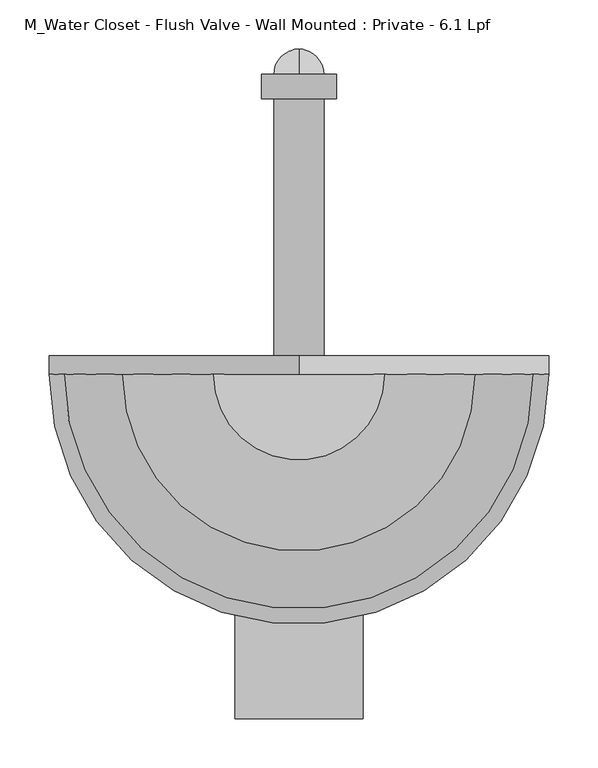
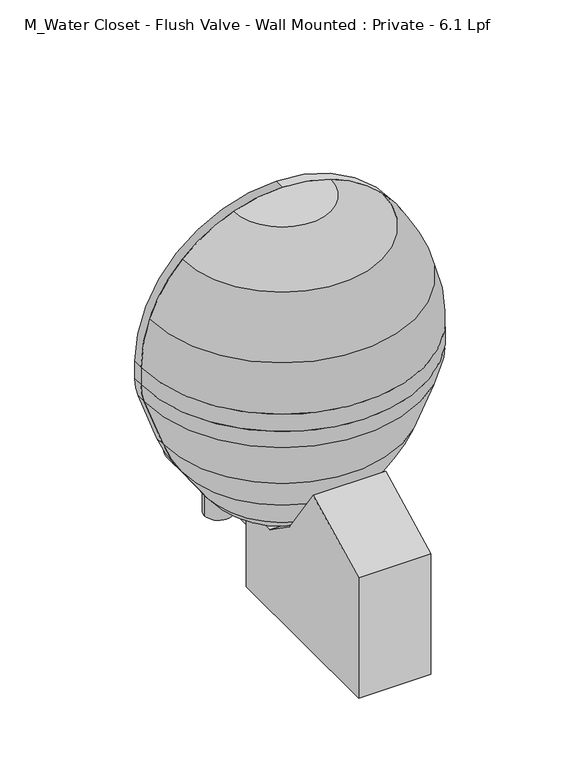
"""IFC4 building model written with IfcOpenShell, lengths in millimetres: flow terminal geometry, M_Water Closet - Flush Valve - Wall Mounted : Private - 6.1 Lpf."""

from ifc_helpers import new_model, si_unit, point, frame, frame_2d, origin, origin_with_axes, place, context, project, spatial, polyline, circle_curve, ellipse_curve, trimmed, segment, composite_curve, outline, extrude, source, transform, mapped, element, save
from ifc_brep_helpers import plane_surface, cylinder_surface, revolved_surface, advanced_brep


def m_water_closet_flush_valve_wall_mounted_private_6_1_lpf_4ab4cbdd(model_context):
    return source(origin(), model_context, "Body", "SolidModel", [
        extrude(outline(polyline([(245.0347495, -62.8509631), (194.0438043, -135.6735798), (169.0933226, -110.7230981), (145.0485961, -44.6607552), (145.0485961, 44.6607552), (169.0933226, 110.7230981), (194.0438043, 135.6735798), (245.0347495, 62.8509631), (245.0347495, -62.8509631)])), frame((0.0, 56.9324174, 0.0), z_axis=(0.0, 1.0, 0.0), x_axis=(0.0, 0.0, 1.0)), (0.0, 0.0, 1.0), 19.05),
        advanced_brep(
        [(-62.8509631, 75.9824174, 245.0347495), (-62.8509631, 56.9324174, 245.0347495), (-135.6735798, 56.9324174, 194.0438043), (-135.6735798, 75.9824174, 194.0438043), (-107.9552454, 75.9824174, 309.4503403), (-107.9552454, 56.9324174, 309.4503403), (-180.7778621, 56.9324174, 258.4593951), (-180.7778621, 75.9824174, 258.4593951), (-130.9182252, 56.9324174, 353.5618141), (-130.9182252, 75.9824174, 353.5618141), (-214.4568992, 56.9324174, 323.1562234), (-214.4568992, 75.9824174, 323.1562234), (-164.3340963, 75.9824174, 445.3711654), (-164.3340963, 56.9324174, 445.3711654), (-247.8727703, 56.9324174, 414.9655747), (-247.8727703, 75.9824174, 414.9655747), (-165.1, 56.9324174, 449.7148212), (-165.1, 75.9824174, 449.7148212), (-254.0, 56.9324174, 449.7148212), (-254.0, 75.9824174, 449.7148212), (-165.1, 75.9824174, 482.6), (-165.1, 56.9324174, 482.6), (-254.0, 56.9324174, 482.6), (-254.0, 75.9824174, 482.6), (0.0, 56.9324174, 647.7), (0.0, 75.9824174, 647.7), (0.0, 56.9324174, 736.6), (0.0, 75.9824174, 736.6), (165.1, 56.9324174, 482.6), (165.1, 75.9824174, 482.6), (254.0, 56.9324174, 482.6), (254.0, 75.9824174, 482.6), (165.1, 75.9824174, 449.7148212), (165.1, 56.9324174, 449.7148212), (254.0, 56.9324174, 449.7148212), (254.0, 75.9824174, 449.7148212), (164.3340963, 56.9324174, 445.3711654), (164.3340963, 75.9824174, 445.3711654), (247.8727703, 56.9324174, 414.9655747), (247.8727703, 75.9824174, 414.9655747), (130.9182252, 75.9824174, 353.5618141), (130.9182252, 56.9324174, 353.5618141), (214.4568992, 56.9324174, 323.1562234), (214.4568992, 75.9824174, 323.1562234), (107.9552454, 56.9324174, 309.4503403), (107.9552454, 75.9824174, 309.4503403), (180.7778621, 56.9324174, 258.4593951), (180.7778621, 75.9824174, 258.4593951), (62.8509631, 75.9824174, 245.0347495), (135.6735798, 75.9824174, 194.0438043), (135.6735798, 56.9324174, 194.0438043), (62.8509631, 56.9324174, 245.0347495)],
        [
            (0, 1),
            (1, 2),
            (2, 3),
            (3, 0),
            (0, 4),
            (4, 5),
            (5, 1),
            (5, 6),
            (6, 2),
            (6, 7),
            (7, 3),
            (7, 4),
            (8, 5, circle_curve(frame((48.0932191, 56.9324174, 418.7166514), z_axis=(0.0, -1.0, 0.0), x_axis=(-0.81915204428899, 0.0, -0.5735764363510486)), 190.5)),
            (4, 9, circle_curve(frame((48.0932191, 75.9824174, 418.7166514), z_axis=(0.0, 1.0, 0.0), x_axis=(-0.81915204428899, 0.0, -0.5735764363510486)), 190.5)),
            (9, 8),
            (10, 6, circle_curve(frame((48.0932191, 56.9324174, 418.7166514), z_axis=(0.0, -1.0, 0.0), x_axis=(-0.81915204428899, 0.0, -0.5735764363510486)), 279.4)),
            (8, 10),
            (11, 7, circle_curve(frame((48.0932191, 75.9824174, 418.7166514), z_axis=(0.0, -1.0, 0.0), x_axis=(-0.81915204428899, 0.0, -0.5735764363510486)), 279.4)),
            (10, 11),
            (11, 9),
            (9, 12),
            (12, 13),
            (13, 8),
            (13, 14),
            (14, 10),
            (14, 15),
            (15, 11),
            (15, 12),
            (16, 13, circle_curve(frame((-152.4, 56.9324174, 449.7148212), z_axis=(0.0, -1.0, 0.0), x_axis=(-0.9396926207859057, 0.0, -0.3420201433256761)), 12.7)),
            (12, 17, circle_curve(frame((-152.4, 75.9824174, 449.7148212), z_axis=(0.0, 1.0, 0.0), x_axis=(-0.9396926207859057, 0.0, -0.3420201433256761)), 12.7)),
            (17, 16),
            (18, 14, circle_curve(frame((-152.4, 56.9324174, 449.7148212), z_axis=(0.0, -1.0, 0.0), x_axis=(-0.9396926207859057, 0.0, -0.3420201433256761)), 101.6)),
            (16, 18),
            (19, 15, circle_curve(frame((-152.4, 75.9824174, 449.7148212), z_axis=(0.0, -1.0, 0.0), x_axis=(-0.9396926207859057, 0.0, -0.3420201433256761)), 101.6)),
            (18, 19),
            (19, 17),
            (17, 20),
            (20, 21),
            (21, 16),
            (21, 22),
            (22, 18),
            (22, 23),
            (23, 19),
            (23, 20),
            (24, 21, circle_curve(frame((0.0, 56.9324174, 482.6), z_axis=(0.0, -1.0, 0.0), x_axis=(-1.0, 0.0, 0.0)), 165.1)),
            (20, 25, circle_curve(frame((0.0, 75.9824174, 482.6), z_axis=(0.0, 1.0, 0.0), x_axis=(-1.0, 0.0, 0.0)), 165.1)),
            (25, 24),
            (26, 22, circle_curve(frame((0.0, 56.9324174, 482.6), z_axis=(0.0, -1.0, 0.0), x_axis=(-1.0, 0.0, 0.0)), 254.0)),
            (24, 26),
            (27, 23, circle_curve(frame((0.0, 75.9824174, 482.6), z_axis=(0.0, -1.0, 0.0), x_axis=(-1.0, 0.0, 0.0)), 254.0)),
            (26, 27),
            (27, 25),
            (28, 24, circle_curve(frame((0.0, 56.9324174, 482.6), z_axis=(0.0, -1.0, 0.0), x_axis=(0.0, 0.0, 1.0)), 165.1)),
            (25, 29, circle_curve(frame((0.0, 75.9824174, 482.6), z_axis=(0.0, 1.0, 0.0), x_axis=(0.0, 0.0, 1.0)), 165.1)),
            (29, 28),
            (30, 26, circle_curve(frame((0.0, 56.9324174, 482.6), z_axis=(0.0, -1.0, 0.0), x_axis=(0.0, 0.0, 1.0)), 254.0)),
            (28, 30),
            (31, 27, circle_curve(frame((0.0, 75.9824174, 482.6), z_axis=(0.0, -1.0, 0.0), x_axis=(0.0, 0.0, 1.0)), 254.0)),
            (30, 31),
            (31, 29),
            (29, 32),
            (32, 33),
            (33, 28),
            (33, 34),
            (34, 30),
            (34, 35),
            (35, 31),
            (35, 32),
            (36, 33, circle_curve(frame((152.4, 56.9324174, 449.7148212), z_axis=(0.0, -1.0, 0.0), x_axis=(1.0, 0.0, 0.0)), 12.7)),
            (32, 37, circle_curve(frame((152.4, 75.9824174, 449.7148212), z_axis=(0.0, 1.0, 0.0), x_axis=(1.0, 0.0, 0.0)), 12.7)),
            (37, 36),
            (38, 34, circle_curve(frame((152.4, 56.9324174, 449.7148212), z_axis=(0.0, -1.0, 0.0), x_axis=(1.0, 0.0, 0.0)), 101.6)),
            (36, 38),
            (39, 35, circle_curve(frame((152.4, 75.9824174, 449.7148212), z_axis=(0.0, -1.0, 0.0), x_axis=(1.0, 0.0, 0.0)), 101.6)),
            (38, 39),
            (39, 37),
            (37, 40),
            (40, 41),
            (41, 36),
            (41, 42),
            (42, 38),
            (42, 43),
            (43, 39),
            (43, 40),
            (44, 41, circle_curve(frame((-48.0932191, 56.9324174, 418.7166514), z_axis=(0.0, -1.0, 0.0), x_axis=(0.9396926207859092, 0.0, -0.3420201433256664)), 190.5)),
            (40, 45, circle_curve(frame((-48.0932191, 75.9824174, 418.7166514), z_axis=(0.0, 1.0, 0.0), x_axis=(0.9396926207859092, 0.0, -0.3420201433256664)), 190.5)),
            (45, 44),
            (46, 42, circle_curve(frame((-48.0932191, 56.9324174, 418.7166514), z_axis=(0.0, -1.0, 0.0), x_axis=(0.9396926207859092, 0.0, -0.3420201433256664)), 279.4)),
            (44, 46),
            (47, 43, circle_curve(frame((-48.0932191, 75.9824174, 418.7166514), z_axis=(0.0, -1.0, 0.0), x_axis=(0.9396926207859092, 0.0, -0.3420201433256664)), 279.4)),
            (46, 47),
            (47, 45),
            (48, 49),
            (49, 50),
            (50, 51),
            (51, 48),
            (45, 48),
            (51, 44),
            (50, 46),
            (49, 47),
        ],
        [
            plane_surface(frame((-135.6735798, -5.7171191, 194.0438043), z_axis=(0.5735764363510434, 0.0, -0.8191520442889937), x_axis=(0.8191520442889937, 0.0, 0.5735764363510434))),
            plane_surface(frame((-62.8509631, 75.9824174, 245.0347495), z_axis=(0.8191520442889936, 0.0, 0.5735764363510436), x_axis=(-0.5735764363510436, 0.0, 0.8191520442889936))),
            plane_surface(frame((-62.8509631, 56.9324174, 245.0347495), z_axis=(0.0, -1.0, 0.0), x_axis=(-0.5735764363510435, 0.0, 0.8191520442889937))),
            plane_surface(frame((-135.6735798, 56.9324174, 194.0438043), z_axis=(-0.8191520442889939, 0.0, -0.5735764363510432), x_axis=(-0.5735764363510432, 0.0, 0.8191520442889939))),
            plane_surface(frame((-135.6735798, 75.9824174, 194.0438043), z_axis=(0.0, 1.0000000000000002, 0.0), x_axis=(-0.5735764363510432, 0.0, 0.8191520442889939))),
            revolved_surface(polyline([(-107.95524533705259, 75.9824174, 309.4503402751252), (-107.95524533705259, 56.9324174, 309.4503402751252)]), (48.0932191, 88.6824174, 418.7166514), (0.0, 1.0, 0.0)),
            plane_surface(frame((48.0932191, 56.9324174, 418.7166514), z_axis=(0.0, -1.0, 0.0), x_axis=(-0.81915204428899, 0.0, -0.5735764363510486))),
            cylinder_surface(frame((48.0932191, 88.6824174, 418.7166514), z_axis=(0.0, 1.0, 0.0), x_axis=(-0.81915204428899, 0.0, -0.5735764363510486)), 279.4),
            plane_surface(frame((48.0932191, 75.9824174, 418.7166514), z_axis=(0.0, 1.0, 0.0), x_axis=(-0.81915204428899, 0.0, -0.5735764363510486))),
            plane_surface(frame((-130.9182252, 75.9824174, 353.5618141), z_axis=(0.939692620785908, 0.0, 0.3420201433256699), x_axis=(-0.3420201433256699, 0.0, 0.939692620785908))),
            plane_surface(frame((-130.9182252, 56.9324174, 353.5618141), z_axis=(0.0, -1.0, 0.0), x_axis=(-0.34202014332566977, 0.0, 0.939692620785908))),
            plane_surface(frame((-214.4568992, 56.9324174, 323.1562234), z_axis=(-0.9396926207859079, 0.0, -0.3420201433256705), x_axis=(-0.3420201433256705, 0.0, 0.9396926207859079))),
            plane_surface(frame((-214.4568992, 75.9824174, 323.1562234), z_axis=(0.0, 1.0, 0.0), x_axis=(-0.34202014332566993, 0.0, 0.939692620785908))),
            revolved_surface(polyline([(-164.334096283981, 75.9824174, 445.3711653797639), (-164.334096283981, 56.9324174, 445.3711653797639)]), (-152.4, 88.6824174, 449.7148212), (0.0, 1.0, 0.0)),
            plane_surface(frame((-152.4, 56.9324174, 449.7148212), z_axis=(0.0, -1.0000000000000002, 0.0), x_axis=(-0.9396926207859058, 0.0, -0.34202014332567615))),
            cylinder_surface(frame((-152.4, 88.6824174, 449.7148212), z_axis=(0.0, 1.0, 0.0), x_axis=(-0.9396926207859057, 0.0, -0.3420201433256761)), 101.6),
            plane_surface(frame((-152.4, 75.9824174, 449.7148212), z_axis=(0.0, 1.0000000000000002, 0.0), x_axis=(-0.9396926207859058, 0.0, -0.34202014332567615))),
            plane_surface(frame((-165.1, 75.9824174, 449.7148212), z_axis=(1.0, 0.0, 0.0), x_axis=(0.0, 0.0, 1.0))),
            plane_surface(frame((-165.1, 56.9324174, 449.7148212), z_axis=(0.0, -1.0, 0.0), x_axis=(0.0, 0.0, 1.0))),
            plane_surface(frame((-254.0, 56.9324174, 449.7148212), z_axis=(-1.0, 0.0, 0.0), x_axis=(0.0, 0.0, 1.0))),
            plane_surface(frame((-254.0, 75.9824174, 449.7148212), z_axis=(0.0, 1.0, 0.0), x_axis=(0.0, 0.0, 1.0))),
            revolved_surface(polyline([(-165.1, 75.9824174, 482.6), (-165.1, 56.9324174, 482.6)]), (0.0, 88.6824174, 482.6), (0.0, 1.0, 0.0)),
            plane_surface(frame((0.0, 56.9324174, 482.6), z_axis=(0.0, -1.0, 0.0), x_axis=(-1.0, 0.0, 0.0))),
            cylinder_surface(frame((0.0, 88.6824174, 482.6), z_axis=(0.0, 1.0, 0.0), x_axis=(-1.0, 0.0, 0.0)), 254.0),
            plane_surface(frame((0.0, 75.9824174, 482.6), z_axis=(0.0, 1.0, 0.0), x_axis=(-1.0, 0.0, 0.0))),
            revolved_surface(polyline([(0.0, 75.9824174, 647.7), (0.0, 56.9324174, 647.7)]), (0.0, 88.6824174, 482.6), (0.0, 1.0, 0.0)),
            plane_surface(frame((0.0, 56.9324174, 482.6), z_axis=(0.0, -1.0, 0.0), x_axis=(0.0, 0.0, 1.0))),
            cylinder_surface(frame((0.0, 88.6824174, 482.6), z_axis=(0.0, 1.0, 0.0), x_axis=(0.0, 0.0, 1.0)), 254.0),
            plane_surface(frame((0.0, 75.9824174, 482.6), z_axis=(0.0, 1.0, 0.0), x_axis=(0.0, 0.0, 1.0))),
            plane_surface(frame((165.1, 75.9824174, 482.6), z_axis=(-1.0, 0.0, 0.0), x_axis=(0.0, 0.0, -1.0))),
            plane_surface(frame((165.1, 56.9324174, 482.6), z_axis=(0.0, -1.0, 0.0), x_axis=(0.0, 0.0, -1.0))),
            plane_surface(frame((254.0, 56.9324174, 482.6), z_axis=(1.0, 0.0, 0.0), x_axis=(0.0, 0.0, -1.0))),
            plane_surface(frame((254.0, 75.9824174, 482.6), z_axis=(0.0, 1.0, 0.0), x_axis=(0.0, 0.0, -1.0))),
            revolved_surface(polyline([(165.1, 75.9824174, 449.7148212), (165.1, 56.9324174, 449.7148212)]), (152.4, 88.6824174, 449.7148212), (0.0, 1.0, 0.0)),
            plane_surface(frame((152.4, 56.9324174, 449.7148212), z_axis=(0.0, -1.0, 0.0), x_axis=(1.0, 0.0, 0.0))),
            cylinder_surface(frame((152.4, 88.6824174, 449.7148212), z_axis=(0.0, 1.0, 0.0), x_axis=(1.0, 0.0, 0.0)), 101.6),
            plane_surface(frame((152.4, 75.9824174, 449.7148212), z_axis=(0.0, 1.0, 0.0), x_axis=(1.0, 0.0, 0.0))),
            plane_surface(frame((164.3340963, 75.9824174, 445.3711654), z_axis=(-0.9396926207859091, 0.0, 0.34202014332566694), x_axis=(-0.34202014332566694, 0.0, -0.9396926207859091))),
            plane_surface(frame((164.3340963, 56.9324174, 445.3711654), z_axis=(0.0, -1.0000000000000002, 0.0), x_axis=(-0.34202014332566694, 0.0, -0.9396926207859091))),
            plane_surface(frame((247.8727703, 56.9324174, 414.9655747), z_axis=(0.939692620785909, 0.0, -0.34202014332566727), x_axis=(-0.34202014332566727, 0.0, -0.939692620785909))),
            plane_surface(frame((247.8727703, 75.9824174, 414.9655747), z_axis=(0.0, 1.0000000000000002, 0.0), x_axis=(-0.34202014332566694, 0.0, -0.9396926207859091))),
            revolved_surface(polyline([(130.91822515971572, 75.9824174, 353.5618140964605), (130.91822515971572, 56.9324174, 353.5618140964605)]), (-48.0932191, 88.6824174, 418.7166514), (0.0, 1.0, 0.0)),
            plane_surface(frame((-48.0932191, 56.9324174, 418.7166514), z_axis=(0.0, -1.0000000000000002, 0.0), x_axis=(0.9396926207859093, 0.0, -0.34202014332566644))),
            cylinder_surface(frame((-48.0932191, 88.6824174, 418.7166514), z_axis=(0.0, 1.0, 0.0), x_axis=(0.9396926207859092, 0.0, -0.3420201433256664)), 279.4),
            plane_surface(frame((-48.0932191, 75.9824174, 418.7166514), z_axis=(0.0, 1.0000000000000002, 0.0), x_axis=(0.9396926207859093, 0.0, -0.34202014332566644))),
            plane_surface(frame((135.6735798, 183.081954, 194.0438043), z_axis=(-0.573576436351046, 0.0, -0.8191520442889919), x_axis=(0.8191520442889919, 0.0, -0.573576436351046))),
            plane_surface(frame((107.9552454, 75.9824174, 309.4503403), z_axis=(-0.8191520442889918, 0.0, 0.5735764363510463), x_axis=(-0.5735764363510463, 0.0, -0.8191520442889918))),
            plane_surface(frame((107.9552454, 56.9324174, 309.4503403), z_axis=(0.0, -1.0, 0.0), x_axis=(-0.573576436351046, 0.0, -0.8191520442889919))),
            plane_surface(frame((180.7778621, 56.9324174, 258.4593951), z_axis=(0.8191520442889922, 0.0, -0.5735764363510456), x_axis=(-0.5735764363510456, 0.0, -0.8191520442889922))),
            plane_surface(frame((180.7778621, 75.9824174, 258.4593951), z_axis=(0.0, 1.0000000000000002, 0.0), x_axis=(-0.5735764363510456, 0.0, -0.8191520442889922))),
        ],
        [
            (0, [[1, 2, 3, 4]]),
            (1, [[-1, 5, 6, 7]]),
            (2, [[-2, -7, 8, 9]]),
            (3, [[-3, -9, 10, 11]]),
            (4, [[-4, -11, 12, -5]]),
            (5, [[13, -6, 14, 15]]),
            (6, [[16, -8, -13, 17]]),
            (7, [[18, -10, -16, 19]]),
            (8, [[-14, -12, -18, 20]]),
            (9, [[-15, 21, 22, 23]]),
            (10, [[-17, -23, 24, 25]]),
            (11, [[-19, -25, 26, 27]]),
            (12, [[-20, -27, 28, -21]]),
            (13, [[29, -22, 30, 31]]),
            (14, [[32, -24, -29, 33]]),
            (15, [[34, -26, -32, 35]]),
            (16, [[-30, -28, -34, 36]]),
            (17, [[-31, 37, 38, 39]]),
            (18, [[-33, -39, 40, 41]]),
            (19, [[-35, -41, 42, 43]]),
            (20, [[-36, -43, 44, -37]]),
            (21, [[45, -38, 46, 47]]),
            (22, [[48, -40, -45, 49]]),
            (23, [[50, -42, -48, 51]]),
            (24, [[-46, -44, -50, 52]]),
            (25, [[53, -47, 54, 55]]),
            (26, [[56, -49, -53, 57]]),
            (27, [[58, -51, -56, 59]]),
            (28, [[-54, -52, -58, 60]]),
            (29, [[-55, 61, 62, 63]]),
            (30, [[-57, -63, 64, 65]]),
            (31, [[-59, -65, 66, 67]]),
            (32, [[-60, -67, 68, -61]]),
            (33, [[69, -62, 70, 71]]),
            (34, [[72, -64, -69, 73]]),
            (35, [[74, -66, -72, 75]]),
            (36, [[-70, -68, -74, 76]]),
            (37, [[-71, 77, 78, 79]]),
            (38, [[-73, -79, 80, 81]]),
            (39, [[-75, -81, 82, 83]]),
            (40, [[-76, -83, 84, -77]]),
            (41, [[85, -78, 86, 87]]),
            (42, [[88, -80, -85, 89]]),
            (43, [[90, -82, -88, 91]]),
            (44, [[-86, -84, -90, 92]]),
            (45, [[93, 94, 95, 96]]),
            (46, [[-87, 97, -96, 98]]),
            (47, [[-89, -98, -95, 99]]),
            (48, [[-91, -99, -94, 100]]),
            (49, [[-92, -100, -93, -97]]),
        ],
    ),
        advanced_brep(
        [(-86.8731164, 56.9324174, 721.2819257), (0.0, 56.9324174, 736.6), (0.0, 56.9324174, 711.2), (-78.1858048, 56.9324174, 697.4137331), (-161.6446102, 56.9324174, 644.2446102), (-214.8137331, 56.9324174, 560.7858048), (-228.6, 56.9324174, 482.6), (-228.6, 56.9324174, 449.7148212), (-224.0045777, 56.9324174, 423.6528863), (-191.7324129, 56.9324174, 334.9858422), (-158.0533758, 56.9324174, 270.2890139), (-120.1697426, 56.9324174, 216.1855786), (-63.2399099, 56.9324174, 176.3228806), (0.0, 56.9324174, 159.3777978), (0.0, 56.9324174, 133.0817829), (-78.7437471, 56.9324174, 154.1811063), (-135.6735798, 56.9324174, 194.0438043), (-180.7778621, 56.9324174, 258.4593951), (-214.4568992, 56.9324174, 323.1562234), (-247.8727703, 56.9324174, 414.9655747), (-254.0, 56.9324174, 449.7148212), (-254.0, 56.9324174, 482.6), (-238.6819257, 56.9324174, 569.4731164), (-179.6051224, 56.9324174, 662.2051224), (86.8731164, 56.9324174, 721.2819257), (179.6051224, 56.9324174, 662.2051224), (238.6819257, 56.9324174, 569.4731164), (254.0, 56.9324174, 482.6), (254.0, 56.9324174, 449.7148212), (247.8727703, 56.9324174, 414.9655747), (214.4568992, 56.9324174, 323.1562234), (180.7778621, 56.9324174, 258.4593951), (135.6735798, 56.9324174, 194.0438043), (78.7437471, 56.9324174, 154.1811063), (63.2399099, 56.9324174, 176.3228806), (120.1697426, 56.9324174, 216.1855786), (158.0533758, 56.9324174, 270.2890139), (191.7324129, 56.9324174, 334.9858422), (224.0045777, 56.9324174, 423.6528863), (228.6, 56.9324174, 449.7148212), (228.6, 56.9324174, 482.6), (214.8137331, 56.9324174, 560.7858048), (161.6446102, 56.9324174, 644.2446102), (78.1858048, 56.9324174, 697.4137331)],
        [
            (0, 1, circle_curve(frame((0.0, 56.9324174, 482.6), z_axis=(0.0, 1.0, 0.0), x_axis=(-1.0, 0.0, 0.0)), 254.0)),
            (1, 2),
            (2, 3, circle_curve(frame((0.0, 56.9324174, 482.6), z_axis=(0.0, -1.0, 0.0), x_axis=(-1.0, 0.0, 0.0)), 228.6)),
            (3, 4, circle_curve(frame((0.0, 56.9324174, 482.6), z_axis=(0.0, -1.0, 0.0), x_axis=(-1.0, 0.0, 0.0)), 228.6)),
            (4, 5, circle_curve(frame((0.0, 56.9324174, 482.6), z_axis=(0.0, -1.0, 0.0), x_axis=(-1.0, 0.0, 0.0)), 228.6)),
            (5, 6, circle_curve(frame((0.0, 56.9324174, 482.6), z_axis=(0.0, -1.0, 0.0), x_axis=(-1.0, 0.0, 0.0)), 228.6)),
            (6, 7),
            (7, 8, circle_curve(frame((-152.4, 56.9324174, 449.7148212), z_axis=(0.0, -1.0, 0.0), x_axis=(-1.0, 0.0, 0.0)), 76.2)),
            (8, 9),
            (9, 10, circle_curve(frame((70.8177054, 56.9324174, 430.5462703), z_axis=(0.0, -1.0, 0.0), x_axis=(-1.0, 0.0, 0.0)), 279.4)),
            (10, 11),
            (11, 12, circle_curve(frame((-36.9438949, 56.9324174, 274.4609446), z_axis=(0.0, -1.0, 0.0), x_axis=(-1.0, 0.0, 0.0)), 101.6)),
            (12, 13),
            (13, 14),
            (14, 15),
            (15, 16, circle_curve(frame((-52.4477321, 56.9324174, 252.3191703), z_axis=(0.0, 1.0, 0.0), x_axis=(-1.0, 0.0, 0.0)), 101.6)),
            (16, 17),
            (17, 18, circle_curve(frame((48.0932191, 56.9324174, 418.7166514), z_axis=(0.0, 1.0, 0.0), x_axis=(-1.0, 0.0, 0.0)), 279.4)),
            (18, 19),
            (19, 20, circle_curve(frame((-152.4, 56.9324174, 449.7148212), z_axis=(0.0, 1.0, 0.0), x_axis=(-1.0, 0.0, 0.0)), 101.6)),
            (20, 21),
            (21, 22, circle_curve(frame((0.0, 56.9324174, 482.6), z_axis=(0.0, 1.0, 0.0), x_axis=(-1.0, 0.0, 0.0)), 254.0)),
            (22, 23, circle_curve(frame((0.0, 56.9324174, 482.6), z_axis=(0.0, 1.0, 0.0), x_axis=(-1.0, 0.0, 0.0)), 254.0)),
            (23, 0, circle_curve(frame((0.0, 56.9324174, 482.6), z_axis=(0.0, 1.0, 0.0), x_axis=(-1.0, 0.0, 0.0)), 254.0)),
            (24, 25, circle_curve(frame((0.0, 56.9324174, 482.6), z_axis=(0.0, 1.0, 0.0), x_axis=(1.0, 0.0, 0.0)), 254.0)),
            (25, 26, circle_curve(frame((0.0, 56.9324174, 482.6), z_axis=(0.0, 1.0, 0.0), x_axis=(1.0, 0.0, 0.0)), 254.0)),
            (26, 27, circle_curve(frame((0.0, 56.9324174, 482.6), z_axis=(0.0, 1.0, 0.0), x_axis=(1.0, 0.0, 0.0)), 254.0)),
            (27, 28),
            (28, 29, circle_curve(frame((152.4, 56.9324174, 449.7148212), z_axis=(0.0, 1.0, 0.0), x_axis=(1.0, 0.0, 0.0)), 101.6)),
            (29, 30),
            (30, 31, circle_curve(frame((-48.0932191, 56.9324174, 418.7166514), z_axis=(0.0, 1.0, 0.0), x_axis=(1.0, 0.0, 0.0)), 279.4)),
            (31, 32),
            (32, 33, circle_curve(frame((52.4477321, 56.9324174, 252.3191703), z_axis=(0.0, 1.0, 0.0), x_axis=(1.0, 0.0, 0.0)), 101.6)),
            (33, 14),
            (13, 34),
            (34, 35, circle_curve(frame((36.9438949, 56.9324174, 274.4609446), z_axis=(0.0, -1.0, 0.0), x_axis=(1.0, 0.0, 0.0)), 101.6)),
            (35, 36),
            (36, 37, circle_curve(frame((-70.8177054, 56.9324174, 430.5462703), z_axis=(0.0, -1.0, 0.0), x_axis=(1.0, 0.0, 0.0)), 279.4)),
            (37, 38),
            (38, 39, circle_curve(frame((152.4, 56.9324174, 449.7148212), z_axis=(0.0, -1.0, 0.0), x_axis=(1.0, 0.0, 0.0)), 76.2)),
            (39, 40),
            (40, 41, circle_curve(frame((0.0, 56.9324174, 482.6), z_axis=(0.0, -1.0, 0.0), x_axis=(1.0, 0.0, 0.0)), 228.6)),
            (41, 42, circle_curve(frame((0.0, 56.9324174, 482.6), z_axis=(0.0, -1.0, 0.0), x_axis=(1.0, 0.0, 0.0)), 228.6)),
            (42, 43, circle_curve(frame((0.0, 56.9324174, 482.6), z_axis=(0.0, -1.0, 0.0), x_axis=(1.0, 0.0, 0.0)), 228.6)),
            (43, 2, circle_curve(frame((0.0, 56.9324174, 482.6), z_axis=(0.0, -1.0, 0.0), x_axis=(1.0, 0.0, 0.0)), 228.6)),
            (1, 24, circle_curve(frame((0.0, 56.9324174, 482.6), z_axis=(0.0, 1.0, 0.0), x_axis=(1.0, 0.0, 0.0)), 254.0)),
            (0, 24, circle_curve(frame((0.0, 56.9324174, 721.2819257), z_axis=(0.0, 0.0, 1.0), x_axis=(-1.0, 0.0, 0.0)), 86.8731164)),
            (43, 3, circle_curve(frame((0.0, 56.9324174, 697.4137331), z_axis=(0.0, 0.0, -1.0), x_axis=(-1.0, 0.0, 0.0)), 78.1858048)),
            (42, 4, circle_curve(frame((0.0, 56.9324174, 644.2446102), z_axis=(0.0, 0.0, -1.0), x_axis=(-1.0, 0.0, 0.0)), 161.6446102)),
            (41, 5, circle_curve(frame((0.0, 56.9324174, 560.7858048), z_axis=(0.0, 0.0, -1.0), x_axis=(-1.0, 0.0, 0.0)), 214.8137331)),
            (40, 6, circle_curve(frame((0.0, 56.9324174, 482.6), z_axis=(0.0, 0.0, -1.0), x_axis=(-1.0, 0.0, 0.0)), 228.6)),
            (39, 7, circle_curve(frame((0.0, 56.9324174, 449.7148212), z_axis=(0.0, 0.0, -1.0), x_axis=(-1.0, 0.0, 0.0)), 228.6)),
            (38, 8, circle_curve(frame((0.0, 56.9324174, 423.6528863), z_axis=(0.0, 0.0, -1.0), x_axis=(-1.0, 0.0, 0.0)), 224.0045777)),
            (37, 9, circle_curve(frame((0.0, 56.9324174, 334.9858422), z_axis=(0.0, 0.0, -1.0), x_axis=(-1.0, 0.0, 0.0)), 191.7324129)),
            (36, 10, circle_curve(frame((0.0, 56.9324174, 270.2890139), z_axis=(0.0, 0.0, -1.0), x_axis=(-1.0, 0.0, 0.0)), 158.0533758)),
            (35, 11, circle_curve(frame((0.0, 56.9324174, 216.1855786), z_axis=(0.0, 0.0, -1.0), x_axis=(-1.0, 0.0, 0.0)), 120.1697426)),
            (34, 12, circle_curve(frame((0.0, 56.9324174, 176.3228806), z_axis=(0.0, 0.0, -1.0), x_axis=(-1.0, 0.0, 0.0)), 63.2399099)),
            (33, 15, circle_curve(frame((0.0, 56.9324174, 154.1811063), z_axis=(0.0, 0.0, -1.0), x_axis=(-1.0, 0.0, 0.0)), 78.7437471)),
            (32, 16, circle_curve(frame((0.0, 56.9324174, 194.0438043), z_axis=(0.0, 0.0, -1.0), x_axis=(-1.0, 0.0, 0.0)), 135.6735798)),
            (31, 17, circle_curve(frame((0.0, 56.9324174, 258.4593951), z_axis=(0.0, 0.0, -1.0), x_axis=(-1.0, 0.0, 0.0)), 180.7778621)),
            (30, 18, circle_curve(frame((0.0, 56.9324174, 323.1562234), z_axis=(0.0, 0.0, -1.0), x_axis=(-1.0, 0.0, 0.0)), 214.4568992)),
            (29, 19, circle_curve(frame((0.0, 56.9324174, 414.9655747), z_axis=(0.0, 0.0, -1.0), x_axis=(-1.0, 0.0, 0.0)), 247.8727703)),
            (28, 20, circle_curve(frame((0.0, 56.9324174, 449.7148212), z_axis=(0.0, 0.0, -1.0), x_axis=(-1.0, 0.0, 0.0)), 254.0)),
            (27, 21, circle_curve(frame((0.0, 56.9324174, 482.6), z_axis=(0.0, 0.0, -1.0), x_axis=(-1.0, 0.0, 0.0)), 254.0)),
            (26, 22, circle_curve(frame((0.0, 56.9324174, 569.4731164), z_axis=(0.0, 0.0, -1.0), x_axis=(-1.0, 0.0, 0.0)), 238.6819257)),
            (25, 23, circle_curve(frame((0.0, 56.9324174, 662.2051224), z_axis=(0.0, 0.0, -1.0), x_axis=(-1.0, 0.0, 0.0)), 179.6051224)),
        ],
        [
            plane_surface(frame((0.0, 56.9324174, 841.8102448), z_axis=(0.0, 1.0, 0.0), x_axis=(-1.0, 0.0, 0.0))),
            plane_surface(frame((0.0, 56.9324174, 841.8102448), z_axis=(0.0, 1.0, 0.0), x_axis=(1.0, 0.0, 0.0))),
            revolved_surface(trimmed(ellipse_curve(frame((0.0, 56.9324174, 482.6), z_axis=(0.0, 1.0, 0.0), x_axis=(-1.0, 0.0, 0.0)), 254.0, 254.0), [point((-86.8731164, 56.9324174, 721.2819257))], [point((0.0, 56.9324174, 736.6))], True, "CARTESIAN"), (0.0, 56.9324174, 841.8102448), (0.0, 0.0, 1.0)),
            revolved_surface(trimmed(ellipse_curve(frame((0.0, 56.9324174, 482.6), z_axis=(0.0, -1.0, 0.0), x_axis=(-1.0, 0.0, 0.0)), 228.6, 228.6), [point((0.0, 56.9324174, 711.2))], [point((-78.1858048, 56.9324174, 697.4137331))], True, "CARTESIAN"), (0.0, 56.9324174, 841.8102448), (0.0, 0.0, 1.0)),
            revolved_surface(trimmed(ellipse_curve(frame((0.0, 56.9324174, 482.6), z_axis=(0.0, -1.0, 0.0), x_axis=(-1.0, 0.0, 0.0)), 228.6, 228.6), [point((-78.1858048, 56.9324174, 697.4137331))], [point((-161.6446102, 56.9324174, 644.2446102))], True, "CARTESIAN"), (0.0, 56.9324174, 841.8102448), (0.0, 0.0, 1.0)),
            revolved_surface(trimmed(ellipse_curve(frame((0.0, 56.9324174, 482.6), z_axis=(0.0, -1.0, 0.0), x_axis=(-1.0, 0.0, 0.0)), 228.6, 228.6), [point((-161.6446102, 56.9324174, 644.2446102))], [point((-214.8137331, 56.9324174, 560.7858048))], True, "CARTESIAN"), (0.0, 56.9324174, 841.8102448), (0.0, 0.0, 1.0)),
            revolved_surface(trimmed(ellipse_curve(frame((0.0, 56.9324174, 482.6), z_axis=(0.0, -1.0, 0.0), x_axis=(-1.0, 0.0, 0.0)), 228.6, 228.6), [point((-214.8137331, 56.9324174, 560.7858048))], [point((-228.6, 56.9324174, 482.6))], True, "CARTESIAN"), (0.0, 56.9324174, 841.8102448), (0.0, 0.0, 1.0)),
            revolved_surface(polyline([(-228.6, 56.9324174, 482.6), (-228.6, 56.9324174, 449.7148212)]), (0.0, 56.9324174, 841.8102448), (0.0, 0.0, 1.0)),
            revolved_surface(trimmed(ellipse_curve(frame((-152.4, 56.9324174, 449.7148212), z_axis=(0.0, -1.0, 0.0), x_axis=(-1.0, 0.0, 0.0)), 76.2, 76.2), [point((-228.6, 56.9324174, 449.7148212))], [point((-224.0045777, 56.9324174, 423.6528863))], True, "CARTESIAN"), (0.0, 56.9324174, 841.8102448), (0.0, 0.0, 1.0)),
            revolved_surface(polyline([(-224.0045777, 56.9324174, 423.6528863), (-191.7324129, 56.9324174, 334.9858422)]), (0.0, 56.9324174, 841.8102448), (0.0, 0.0, 1.0)),
            revolved_surface(trimmed(ellipse_curve(frame((70.8177054, 56.9324174, 430.5462703), z_axis=(0.0, -1.0, 0.0), x_axis=(-1.0, 0.0, 0.0)), 279.4, 279.4), [point((-191.7324129, 56.9324174, 334.9858422))], [point((-158.0533758, 56.9324174, 270.2890139))], True, "CARTESIAN"), (0.0, 56.9324174, 841.8102448), (0.0, 0.0, 1.0)),
            revolved_surface(polyline([(-158.0533758, 56.9324174, 270.2890139), (-120.1697426, 56.9324174, 216.1855786)]), (0.0, 56.9324174, 841.8102448), (0.0, 0.0, 1.0)),
            revolved_surface(trimmed(ellipse_curve(frame((-36.9438949, 56.9324174, 274.4609446), z_axis=(0.0, -1.0, 0.0), x_axis=(-1.0, 0.0, 0.0)), 101.6, 101.6), [point((-120.1697426, 56.9324174, 216.1855786))], [point((-63.2399099, 56.9324174, 176.3228806))], True, "CARTESIAN"), (0.0, 56.9324174, 841.8102448), (0.0, 0.0, 1.0)),
            revolved_surface(polyline([(-63.2399099, 56.9324174, 176.3228806), (0.0, 56.9324174, 159.3777978)]), (0.0, 56.9324174, 841.8102448), (0.0, 0.0, 1.0)),
            revolved_surface(polyline([(0.0, 56.9324174, 133.0817829), (-78.7437471, 56.9324174, 154.1811063)]), (0.0, 56.9324174, 841.8102448), (0.0, 0.0, 1.0)),
            revolved_surface(trimmed(ellipse_curve(frame((-52.4477321, 56.9324174, 252.3191703), z_axis=(0.0, 1.0, 0.0), x_axis=(-1.0, 0.0, 0.0)), 101.6, 101.6), [point((-78.7437471, 56.9324174, 154.1811063))], [point((-135.6735798, 56.9324174, 194.0438043))], True, "CARTESIAN"), (0.0, 56.9324174, 841.8102448), (0.0, 0.0, 1.0)),
            revolved_surface(polyline([(-135.6735798, 56.9324174, 194.0438043), (-180.7778621, 56.9324174, 258.4593951)]), (0.0, 56.9324174, 841.8102448), (0.0, 0.0, 1.0)),
            revolved_surface(trimmed(ellipse_curve(frame((48.0932191, 56.9324174, 418.7166514), z_axis=(0.0, 1.0, 0.0), x_axis=(-1.0, 0.0, 0.0)), 279.4, 279.4), [point((-180.7778621, 56.9324174, 258.4593951))], [point((-214.4568992, 56.9324174, 323.1562234))], True, "CARTESIAN"), (0.0, 56.9324174, 841.8102448), (0.0, 0.0, 1.0)),
            revolved_surface(polyline([(-214.4568992, 56.9324174, 323.1562234), (-247.8727703, 56.9324174, 414.9655747)]), (0.0, 56.9324174, 841.8102448), (0.0, 0.0, 1.0)),
            revolved_surface(trimmed(ellipse_curve(frame((-152.4, 56.9324174, 449.7148212), z_axis=(0.0, 1.0, 0.0), x_axis=(-1.0, 0.0, 0.0)), 101.6, 101.6), [point((-247.8727703, 56.9324174, 414.9655747))], [point((-254.0, 56.9324174, 449.7148212))], True, "CARTESIAN"), (0.0, 56.9324174, 841.8102448), (0.0, 0.0, 1.0)),
            cylinder_surface(frame((0.0, 56.9324174, 841.8102448), z_axis=(0.0, 0.0, 1.0), x_axis=(-1.0, 0.0, 0.0)), 254.0),
            revolved_surface(trimmed(ellipse_curve(frame((0.0, 56.9324174, 482.6), z_axis=(0.0, 1.0, 0.0), x_axis=(-1.0, 0.0, 0.0)), 254.0, 254.0), [point((-254.0, 56.9324174, 482.6))], [point((-238.6819257, 56.9324174, 569.4731164))], True, "CARTESIAN"), (0.0, 56.9324174, 841.8102448), (0.0, 0.0, 1.0)),
            revolved_surface(trimmed(ellipse_curve(frame((0.0, 56.9324174, 482.6), z_axis=(0.0, 1.0, 0.0), x_axis=(-1.0, 0.0, 0.0)), 254.0, 254.0), [point((-238.6819257, 56.9324174, 569.4731164))], [point((-179.6051224, 56.9324174, 662.2051224))], True, "CARTESIAN"), (0.0, 56.9324174, 841.8102448), (0.0, 0.0, 1.0)),
            revolved_surface(trimmed(ellipse_curve(frame((0.0, 56.9324174, 482.6), z_axis=(0.0, 1.0, 0.0), x_axis=(-1.0, 0.0, 0.0)), 254.0, 254.0), [point((-179.6051224, 56.9324174, 662.2051224))], [point((-86.8731164, 56.9324174, 721.2819257))], True, "CARTESIAN"), (0.0, 56.9324174, 841.8102448), (0.0, 0.0, 1.0)),
        ],
        [
            (0, [[1, 2, 3, 4, 5, 6, 7, 8, 9, 10, 11, 12, 13, 14, 15, 16, 17, 18, 19, 20, 21, 22, 23, 24]]),
            (1, [[25, 26, 27, 28, 29, 30, 31, 32, 33, 34, -14, 35, 36, 37, 38, 39, 40, 41, 42, 43, 44, 45, -2, 46]]),
            (2, [[-1, 47, -46]]),
            (3, [[48, -3, -45]]),
            (4, [[49, -4, -48, -44]]),
            (5, [[50, -5, -49, -43]]),
            (6, [[51, -6, -50, -42]]),
            (7, [[52, -7, -51, -41]]),
            (8, [[53, -8, -52, -40]]),
            (9, [[54, -9, -53, -39]]),
            (10, [[55, -10, -54, -38]]),
            (11, [[56, -11, -55, -37]]),
            (12, [[57, -12, -56, -36]]),
            (13, [[-13, -57, -35]]),
            (14, [[58, -15, -34]]),
            (15, [[59, -16, -58, -33]]),
            (16, [[60, -17, -59, -32]]),
            (17, [[61, -18, -60, -31]]),
            (18, [[62, -19, -61, -30]]),
            (19, [[63, -20, -62, -29]]),
            (20, [[64, -21, -63, -28]]),
            (21, [[65, -22, -64, -27]]),
            (22, [[66, -23, -65, -26]]),
            (23, [[-47, -24, -66, -25]]),
        ],
    ),
        advanced_brep(
        [(0.0, 361.7324174, 44.9176912), (0.0, 361.7324174, 96.1528563), (0.0, 387.35, 70.5352737), (0.0, 361.7324174, 70.5352737)],
        [
            (0, 1, circle_curve(frame((0.0, 361.7324174, 70.5352737), z_axis=(0.0, 1.0, 0.0), x_axis=(0.0, 0.0, 1.0)), 25.6175826)),
            (1, 2, circle_curve(frame((0.0, 361.7324174, 70.5352737), z_axis=(-1.0, 0.0, 0.0), x_axis=(0.0, 0.0, -1.0)), 25.6175826)),
            (2, 0, circle_curve(frame((0.0, 361.7324174, 70.5352737), z_axis=(-1.0, 0.0, 0.0), x_axis=(0.0, 0.0, 1.0)), 25.6175826)),
            (1, 0, circle_curve(frame((0.0, 361.7324174, 70.5352737), z_axis=(0.0, 1.0, 0.0), x_axis=(0.0, 0.0, 1.0)), 25.6175826)),
            (3, 1),
            (0, 3),
        ],
        [
            revolved_surface(trimmed(ellipse_curve(frame((0.0, 361.7324174, 70.5352737), z_axis=(1.0, 0.0, 0.0), x_axis=(0.0, 0.0, -1.0)), 25.6175826, 25.6175826), [point((0.0, 387.35, 70.5352737))], [point((0.0, 361.7324174, 96.1528563))], True, "CARTESIAN"), (0.0, 426.3601447, 70.5352737), (0.0, -1.0, 0.0)),
            plane_surface(frame((0.0, 361.7324174, 70.5352737), z_axis=(0.0, -1.0, 0.0), x_axis=(0.0, 0.0, 1.0))),
        ],
        [
            (0, [[1, 2, 3]]),
            (0, [[4, -3, -2]]),
            (1, [[5, -1, 6]]),
            (1, [[-6, -4, -5]]),
        ],
    ),
        extrude(outline(composite_curve([segment(trimmed(circle_curve(frame_2d((70.5352737, 0.0)), 38.1), [point((70.5352737, 38.1))], [point((70.5352737, -38.1))], False, "CARTESIAN"), True, "CONTINUOUS"), segment(trimmed(circle_curve(frame_2d((70.5352737, 0.0)), 38.1), [point((70.5352737, -38.1))], [point((70.5352737, 38.1))], False, "CARTESIAN"), True, "CONTINUOUS")], self_intersect=False)), frame((0.0, 336.9324174, 0.0), z_axis=(0.0, 1.0, 0.0), x_axis=(0.0, 0.0, 1.0)), (0.0, 0.0, 1.0), 25.0),
        extrude(outline(composite_curve([segment(trimmed(circle_curve(frame_2d((0.0, 255.9824174)), 25.0), [point((25.0, 255.9824174))], [point((-25.0, 255.9824174))], False, "CARTESIAN"), True, "CONTINUOUS"), segment(trimmed(circle_curve(frame_2d((0.0, 255.9824174)), 25.0), [point((-25.0, 255.9824174))], [point((25.0, 255.9824174))], False, "CARTESIAN"), True, "CONTINUOUS")], self_intersect=False)), origin_with_axes(), (0.0, 0.0, 1.0), 50.0),
        extrude(outline(composite_curve([segment(trimmed(circle_curve(frame_2d((70.5352737, 0.0)), 25.4), [point((70.5352737, 25.4))], [point((70.5352737, -25.4))], False, "CARTESIAN"), True, "CONTINUOUS"), segment(trimmed(circle_curve(frame_2d((70.5352737, 0.0)), 25.4), [point((70.5352737, -25.4))], [point((70.5352737, 25.4))], False, "CARTESIAN"), True, "CONTINUOUS")], self_intersect=False)), frame((0.0, 56.9324174, 0.0), z_axis=(0.0, 1.0, 0.0), x_axis=(0.0, 0.0, 1.0)), (0.0, 0.0, 1.0), 280.0),
        extrude(outline(polyline([(56.9324174, 152.8037941), (56.9324174, 0.0), (-293.0675826, 0.0), (-293.0675826, 229.285023), (-151.9347237, 300.5426282), (-79.0905163, 196.5103185), (-16.6711305, 152.8037941), (56.9324174, 152.8037941)])), frame((-65.0, 0.0, 0.0), z_axis=(1.0, 0.0, 0.0), x_axis=(0.0, 1.0, 0.0)), (0.0, 0.0, 1.0), 130.0),
        extrude(outline(composite_curve([segment(trimmed(circle_curve(frame_2d((0.0, -179.0175826)), 40.0), [point((-40.0, -179.0175826))], [point((40.0, -179.0175826))], False, "CARTESIAN"), True, "CONTINUOUS"), segment(trimmed(circle_curve(frame_2d((0.0, -179.0175826)), 40.0), [point((40.0, -179.0175826))], [point((-40.0, -179.0175826))], False, "CARTESIAN"), True, "CONTINUOUS")], self_intersect=False)), origin_with_axes(), (0.0, 0.0, 1.0), 90.0),
    ])


if __name__ == "__main__":
    model = new_model("IFC4")
    model_context = context("Model", 3, world=origin())
    ifc_project = project(units=[si_unit("LENGTHUNIT", "METRE", prefix="MILLI")], contexts=[model_context])
    site = spatial("IfcSite", under=ifc_project)
    building = spatial("IfcBuilding", under=site)
    placement = place(None, origin())
    m_water_closet_flush_valve_wall_mounted_private_6_1_lpf_shape = m_water_closet_flush_valve_wall_mounted_private_6_1_lpf_4ab4cbdd(model_context)
    element("IfcFlowTerminal", 1, ObjectType="M_Water Closet - Flush Valve - Wall Mounted : Private - 6.1 Lpf", at=placement, inside=building, context=model_context, shape_type="MappedRepresentation", body=[
        mapped(m_water_closet_flush_valve_wall_mounted_private_6_1_lpf_shape, transform((0.0, 0.0, 0.0), x_axis=(1.0, 0.0, 0.0), y_axis=(0.0, 1.0, 0.0), z_axis=(0.0, 0.0, 1.0))),
    ])
    save(model, "model.ifc")
